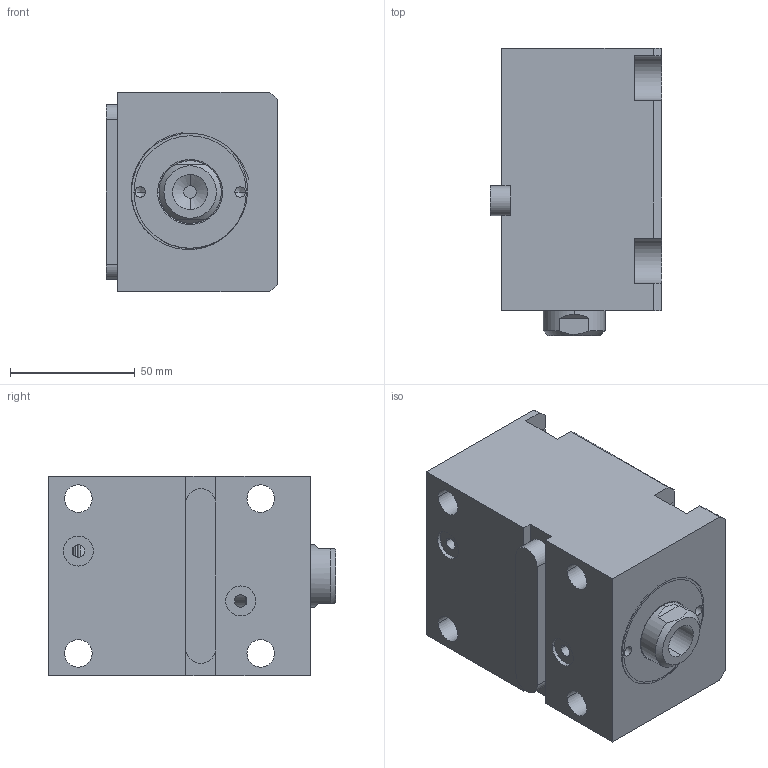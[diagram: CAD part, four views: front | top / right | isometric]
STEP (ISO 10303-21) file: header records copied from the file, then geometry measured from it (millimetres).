
FILE_DESCRIPTION (( 'STEP AP214' ), '1' );
FILE_NAME ('chtb-lam40x50n_asm.STEP', '2018-05-30T01:37:42', ( 'Windows' ), ( 'Microsoft' ), 'SwSTEP 2.0', 'SolidWorks 2015', '' );
FILE_SCHEMA (( 'AUTOMOTIVE_DESIGN' ));
Length unit declared in the file: millimetre
Products named in the file (5): CHTB-SD40X50NHSG; CHTB-SD40QG; CHTB-LAM40X50NBT; CHTB-LA40PJ; chtb-lam40x50n_asm
Assembly tree (4 placements, depth 2):
  chtb-lam40x50n_asm
    CHTB-LA40PJ
    CHTB-LAM40X50NBT
    CHTB-SD40QG
    CHTB-SD40X50NHSG
Bounding box: 68.5 x 115 x 80 mm (x, y, z)
Volume: 463295.3 mm3; surface area: 88885.1 mm2
Topology: 4 solids, 4 shells, 154 faces, 418 edges, 278 vertices
Faces by surface type: cylinder 73, plane 46, bspline 14, torus 12, cone 9
Entity records: 10092 total; most frequent: CARTESIAN_POINT 6074, ORIENTED_EDGE 824, DIRECTION 755, EDGE_CURVE 412, AXIS2_PLACEMENT_3D 300, VERTEX_POINT 278, EDGE_LOOP 180, VECTOR 155
